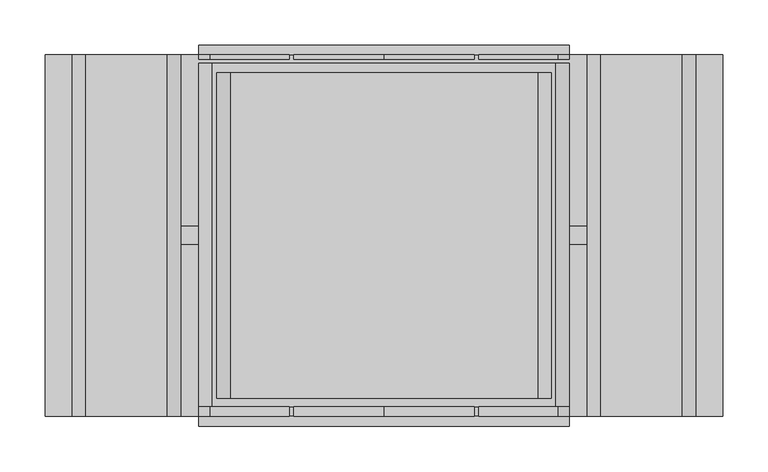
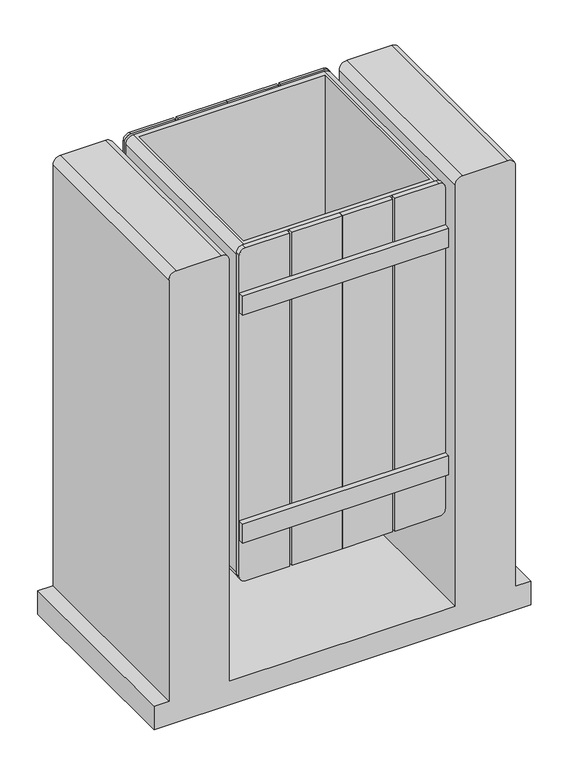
"""IFC4 building model written with IfcOpenShell, lengths in millimetres: furniture geometry, Tacho : Tacho."""

from ifc_helpers import new_model, si_unit, point, frame, frame_2d, origin, place, context, project, spatial, polyline, circle_curve, trimmed, segment, composite_curve, outline, extrude, source, transform, mapped, element, save
from ifc_brep_helpers import plane_surface, cylinder_surface, revolved_surface, advanced_brep


def furniture_01fcf808(model_context):
    return source(origin(), model_context, "Body", "SolidModel", [
        extrude(outline(polyline([(205.0, 400.0), (-205.0, 400.0), (-205.0, 410.4650757), (205.0, 410.4650757), (205.0, 400.0)])), frame((0.0, 0.0, 340.0), z_axis=(0.0, 0.0, 1.0), x_axis=(1.0, 0.0, 0.0)), (0.0, 0.0, 1.0), 40.0),
        extrude(outline(polyline([(205.0, 400.0), (-205.0, 400.0), (-205.0, 410.4650757), (205.0, 410.4650757), (205.0, 400.0)])), frame((0.0, 0.0, 819.1421356), z_axis=(0.0, 0.0, 1.0), x_axis=(1.0, 0.0, 0.0)), (0.0, 0.0, 1.0), 40.0),
        extrude(outline(polyline([(205.0, -11.3262836), (-205.0, -11.3262836), (-205.0, 0.0), (205.0, 0.0), (205.0, -11.3262836)])), frame((0.0, 0.0, 340.0), z_axis=(0.0, 0.0, 1.0), x_axis=(1.0, 0.0, 0.0)), (0.0, 0.0, 1.0), 40.0),
        extrude(outline(polyline([(205.0, -11.3262836), (-205.0, -11.3262836), (-205.0, 0.0), (205.0, 0.0), (205.0, -11.3262836)])), frame((0.0, 0.0, 819.1421356), z_axis=(0.0, 0.0, 1.0), x_axis=(1.0, 0.0, 0.0)), (0.0, 0.0, 1.0), 40.0),
        extrude(outline(composite_curve([segment(polyline([(950.0, 105.0), (250.0, 105.0), (250.0, 192.5)]), True, "CONTINUOUS"), segment(trimmed(circle_curve(frame_2d((262.5, 192.5)), 12.5), [point((250.0, 192.5))], [point((262.5, 205.0))], False, "CARTESIAN"), True, "CONTINUOUS"), segment(polyline([(262.5, 205.0), (937.5, 205.0)]), True, "CONTINUOUS"), segment(trimmed(circle_curve(frame_2d((937.5, 192.5)), 12.5), [point((937.5, 205.0))], [point((950.0, 192.5))], False, "CARTESIAN"), True, "CONTINUOUS"), segment(polyline([(950.0, 192.5), (950.0, 105.0)]), True, "CONTINUOUS")], self_intersect=False)), frame((0.0, 395.0, 0.0), z_axis=(0.0, 1.0, 0.0), x_axis=(0.0, 0.0, 1.0)), (0.0, 0.0, 1.0), 5.0),
        extrude(outline(polyline([(100.0, 395.0), (0.0, 395.0), (0.0, 400.0), (100.0, 400.0), (100.0, 395.0)])), frame((0.0, 0.0, 250.0), z_axis=(0.0, 0.0, 1.0), x_axis=(1.0, 0.0, 0.0)), (0.0, 0.0, 1.0), 700.0),
        extrude(outline(polyline([(0.0, 395.0), (-100.0, 395.0), (-100.0, 400.0), (0.0, 400.0), (0.0, 395.0)])), frame((0.0, 0.0, 250.0), z_axis=(0.0, 0.0, 1.0), x_axis=(1.0, 0.0, 0.0)), (0.0, 0.0, 1.0), 700.0),
        extrude(outline(composite_curve([segment(polyline([(950.0, -105.0), (950.0, -192.5)]), True, "CONTINUOUS"), segment(trimmed(circle_curve(frame_2d((937.5, -192.5)), 12.5), [point((950.0, -192.5))], [point((937.5, -205.0))], False, "CARTESIAN"), True, "CONTINUOUS"), segment(polyline([(937.5, -205.0), (262.5, -205.0)]), True, "CONTINUOUS"), segment(trimmed(circle_curve(frame_2d((262.5, -192.5)), 12.5), [point((262.5, -205.0))], [point((250.0, -192.5))], False, "CARTESIAN"), True, "CONTINUOUS"), segment(polyline([(250.0, -192.5), (250.0, -105.0), (950.0, -105.0)]), True, "CONTINUOUS")], self_intersect=False)), frame((0.0, 395.0, 0.0), z_axis=(0.0, 1.0, 0.0), x_axis=(0.0, 0.0, 1.0)), (0.0, 0.0, 1.0), 5.0),
        extrude(outline(polyline([(100.0, 0.0), (0.0, 0.0), (0.0, 10.1959569), (100.0, 10.1959569), (100.0, 0.0)])), frame((0.0, 0.0, 250.0), z_axis=(0.0, 0.0, 1.0), x_axis=(1.0, 0.0, 0.0)), (0.0, 0.0, 1.0), 700.0),
        extrude(outline(polyline([(0.0, 0.0), (-100.0, 0.0), (-100.0, 10.1959569), (0.0, 10.1959569), (0.0, 0.0)])), frame((0.0, 0.0, 250.0), z_axis=(0.0, 0.0, 1.0), x_axis=(1.0, 0.0, 0.0)), (0.0, 0.0, 1.0), 700.0),
        extrude(outline(composite_curve([segment(polyline([(950.0, 105.0), (250.0, 105.0), (250.0, 192.5)]), True, "CONTINUOUS"), segment(trimmed(circle_curve(frame_2d((262.5, 192.5)), 12.5), [point((250.0, 192.5))], [point((262.5, 205.0))], False, "CARTESIAN"), True, "CONTINUOUS"), segment(polyline([(262.5, 205.0), (937.5, 205.0)]), True, "CONTINUOUS"), segment(trimmed(circle_curve(frame_2d((937.5, 192.5)), 12.5), [point((937.5, 205.0))], [point((950.0, 192.5))], False, "CARTESIAN"), True, "CONTINUOUS"), segment(polyline([(950.0, 192.5), (950.0, 105.0)]), True, "CONTINUOUS")], self_intersect=False)), frame((0.0, 0.0, 0.0), z_axis=(0.0, 1.0, 0.0), x_axis=(0.0, 0.0, 1.0)), (0.0, 0.0, 1.0), 10.1959569),
        extrude(outline(composite_curve([segment(polyline([(950.0, -105.0), (950.0, -192.5)]), True, "CONTINUOUS"), segment(trimmed(circle_curve(frame_2d((937.5, -192.5)), 12.5), [point((950.0, -192.5))], [point((937.5, -205.0))], False, "CARTESIAN"), True, "CONTINUOUS"), segment(polyline([(937.5, -205.0), (262.5, -205.0)]), True, "CONTINUOUS"), segment(trimmed(circle_curve(frame_2d((262.5, -192.5)), 12.5), [point((262.5, -205.0))], [point((250.0, -192.5))], False, "CARTESIAN"), True, "CONTINUOUS"), segment(polyline([(250.0, -192.5), (250.0, -105.0), (950.0, -105.0)]), True, "CONTINUOUS")], self_intersect=False)), frame((0.0, 0.0, 0.0), z_axis=(0.0, 1.0, 0.0), x_axis=(0.0, 0.0, 1.0)), (0.0, 0.0, 1.0), 10.1959569),
        extrude(outline(polyline([(225.0, 210.0), (225.0, 190.0), (205.0, 190.0), (205.0, 210.0), (225.0, 210.0)])), frame((0.0, 0.0, 838.6562284), z_axis=(0.0, 0.0, 1.0), x_axis=(1.0, 0.0, 0.0)), (0.0, 0.0, 1.0), 20.4859072),
        extrude(outline(polyline([(-205.0, 210.0), (-205.0, 190.0), (-225.0, 190.0), (-225.0, 210.0), (-205.0, 210.0)])), frame((0.0, 0.0, 838.6562284), z_axis=(0.0, 0.0, 1.0), x_axis=(1.0, 0.0, 0.0)), (0.0, 0.0, 1.0), 20.4859072),
        advanced_brep(
        [(-205.0, 10.1959569, 265.0), (-190.0, 10.1959569, 250.0), (190.0, 10.1959569, 250.0), (205.0, 10.1959569, 265.0), (205.0, 10.1959569, 935.0), (190.0, 10.1959569, 950.0), (-190.0, 10.1959569, 950.0), (-205.0, 10.1959569, 935.0), (-205.0, 390.4650757, 265.0), (-205.0, 390.4650757, 935.0), (-190.0, 390.4650757, 950.0), (190.0, 390.4650757, 950.0), (205.0, 390.4650757, 935.0), (205.0, 390.4650757, 265.0), (190.0, 390.4650757, 250.0), (-190.0, 390.4650757, 250.0), (185.0, 19.8319905, 950.0), (-185.0, 19.8319905, 950.0), (-185.0, 380.0424252, 950.0), (185.0, 380.0424252, 950.0), (185.0, 19.8319905, 285.0), (170.0, 19.8319905, 270.0), (-170.0, 19.8319905, 270.0), (-185.0, 19.8319905, 285.0), (-185.0, 380.0424252, 285.0), (-170.0, 380.0424252, 270.0), (170.0, 380.0424252, 270.0), (185.0, 380.0424252, 285.0)],
        [
            (0, 1, circle_curve(frame((-190.0, 10.1959569, 265.0), z_axis=(0.0, -1.0, 0.0), x_axis=(1.0, 0.0, 0.0)), 15.0)),
            (1, 2),
            (2, 3, circle_curve(frame((190.0, 10.1959569, 265.0), z_axis=(0.0, -1.0, 0.0), x_axis=(1.0, 0.0, 0.0)), 15.0)),
            (3, 4),
            (4, 5, circle_curve(frame((190.0, 10.1959569, 935.0), z_axis=(0.0, -1.0, 0.0), x_axis=(1.0, 0.0, 0.0)), 15.0)),
            (5, 6),
            (6, 7, circle_curve(frame((-190.0, 10.1959569, 935.0), z_axis=(0.0, -1.0, 0.0), x_axis=(1.0, 0.0, 0.0)), 15.0)),
            (7, 0),
            (8, 9),
            (9, 10, circle_curve(frame((-190.0, 390.4650757, 935.0), z_axis=(0.0, 1.0, 0.0), x_axis=(1.0, 0.0, 0.0)), 15.0)),
            (10, 11),
            (11, 12, circle_curve(frame((190.0, 390.4650757, 935.0), z_axis=(0.0, 1.0, 0.0), x_axis=(1.0, 0.0, 0.0)), 15.0)),
            (12, 13),
            (13, 14, circle_curve(frame((190.0, 390.4650757, 265.0), z_axis=(0.0, 1.0, 0.0), x_axis=(1.0, 0.0, 0.0)), 15.0)),
            (14, 15),
            (15, 8, circle_curve(frame((-190.0, 390.4650757, 265.0), z_axis=(0.0, 1.0, 0.0), x_axis=(1.0, 0.0, 0.0)), 15.0)),
            (0, 8),
            (15, 1),
            (14, 2),
            (13, 3),
            (12, 4),
            (11, 5),
            (10, 6),
            (16, 17),
            (17, 18),
            (18, 19),
            (19, 16),
            (9, 7),
            (20, 21, circle_curve(frame((170.0, 19.8319905, 285.0), z_axis=(0.0, 1.0, 0.0), x_axis=(1.0, 0.0, 0.0)), 15.0)),
            (21, 22),
            (22, 23, circle_curve(frame((-170.0, 19.8319905, 285.0), z_axis=(0.0, 1.0, 0.0), x_axis=(1.0, 0.0, 0.0)), 15.0)),
            (23, 17),
            (16, 20),
            (24, 25, circle_curve(frame((-170.0, 380.0424252, 285.0), z_axis=(0.0, -1.0, 0.0), x_axis=(1.0, 0.0, 0.0)), 15.0)),
            (25, 26),
            (26, 27, circle_curve(frame((170.0, 380.0424252, 285.0), z_axis=(0.0, -1.0, 0.0), x_axis=(1.0, 0.0, 0.0)), 15.0)),
            (27, 19),
            (18, 24),
            (22, 25),
            (24, 23),
            (21, 26),
            (20, 27),
        ],
        [
            plane_surface(frame((-175.0, 10.1959569, 265.0), z_axis=(0.0, -1.0, 0.0), x_axis=(0.0, 0.0, 1.0))),
            plane_surface(frame((-175.0, 390.4650757, 265.0), z_axis=(0.0, 1.0, 0.0), x_axis=(0.0, 0.0, -1.0))),
            cylinder_surface(frame((-190.0, 390.4650757, 265.0), z_axis=(0.0, -1.0, 0.0), x_axis=(1.0, 0.0, 0.0)), 15.0),
            plane_surface(frame((-190.0, 10.1959569, 250.0), z_axis=(0.0, 0.0, -1.0), x_axis=(0.0, 1.0, 0.0))),
            cylinder_surface(frame((190.0, 390.4650757, 265.0), z_axis=(0.0, -1.0, 0.0), x_axis=(1.0, 0.0, 0.0)), 15.0),
            plane_surface(frame((205.0, 10.1959569, 265.0), z_axis=(1.0, 0.0, 0.0), x_axis=(0.0, 1.0, 0.0))),
            cylinder_surface(frame((190.0, 390.4650757, 935.0), z_axis=(0.0, -1.0, 0.0), x_axis=(1.0, 0.0, 0.0)), 15.0),
            plane_surface(frame((190.0, 10.1959569, 950.0), z_axis=(0.0, 0.0, 1.0), x_axis=(0.0, 1.0, 0.0))),
            cylinder_surface(frame((-190.0, 390.4650757, 935.0), z_axis=(0.0, -1.0, 0.0), x_axis=(1.0, 0.0, 0.0)), 15.0),
            plane_surface(frame((-205.0, 10.1959569, 935.0), z_axis=(-1.0, 0.0, 0.0), x_axis=(0.0, 1.0, 0.0))),
            plane_surface(frame((-155.0, 19.8319905, 285.0), z_axis=(0.0, 1.0, 0.0), x_axis=(0.0, 0.0, 1.0))),
            plane_surface(frame((-155.0, 380.0424252, 285.0), z_axis=(0.0, -1.0, 0.0), x_axis=(0.0, 0.0, -1.0))),
            revolved_surface(polyline([(-155.0, 19.831990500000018, 285.0), (-155.0, 380.0424252, 285.0)]), (-170.0, 380.0424252, 285.0), (0.0, -1.0, 0.0)),
            plane_surface(frame((-170.0, 19.8319905, 270.0), z_axis=(0.0, 0.0, 1.0), x_axis=(0.0, 1.0, 0.0))),
            revolved_surface(polyline([(185.0, 19.831990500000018, 285.0), (185.0, 380.0424252, 285.0)]), (170.0, 380.0424252, 285.0), (0.0, -1.0, 0.0)),
            plane_surface(frame((185.0, 19.8319905, 285.0), z_axis=(-1.0, 0.0, 0.0), x_axis=(0.0, 1.0, 0.0))),
            plane_surface(frame((-185.0, 19.8319905, 1016.0452855), z_axis=(1.0, 0.0, 0.0), x_axis=(0.0, 1.0, 0.0))),
        ],
        [
            (0, [[1, 2, 3, 4, 5, 6, 7, 8]]),
            (1, [[9, 10, 11, 12, 13, 14, 15, 16]]),
            (2, [[-1, 17, -16, 18]]),
            (3, [[-2, -18, -15, 19]]),
            (4, [[-3, -19, -14, 20]]),
            (5, [[-4, -20, -13, 21]]),
            (6, [[-5, -21, -12, 22]]),
            (7, [[-6, -22, -11, 23], [24, 25, 26, 27]]),
            (8, [[-7, -23, -10, 28]]),
            (9, [[-8, -28, -9, -17]]),
            (10, [[29, 30, 31, 32, -24, 33]]),
            (11, [[34, 35, 36, 37, -26, 38]]),
            (12, [[-31, 39, -34, 40]]),
            (13, [[-30, 41, -35, -39]]),
            (14, [[-29, 42, -36, -41]]),
            (15, [[-42, -33, -27, -37]]),
            (16, [[-40, -38, -25, -32]]),
        ],
    ),
        extrude(outline(composite_curve([segment(polyline([(0.0, 375.0), (50.0, 375.0), (50.0, 345.0), (935.0, 345.0)]), True, "CONTINUOUS"), segment(trimmed(circle_curve(frame_2d((935.0, 330.0)), 15.0), [point((935.0, 345.0))], [point((950.0, 330.0))], False, "CARTESIAN"), True, "CONTINUOUS"), segment(polyline([(950.0, 330.0), (950.0, 240.0)]), True, "CONTINUOUS"), segment(trimmed(circle_curve(frame_2d((935.0, 240.0)), 15.0), [point((950.0, 240.0))], [point((935.0, 225.0))], False, "CARTESIAN"), True, "CONTINUOUS"), segment(polyline([(935.0, 225.0), (50.0, 225.0), (50.0, -225.0), (935.0, -225.0)]), True, "CONTINUOUS"), segment(trimmed(circle_curve(frame_2d((935.0, -240.0)), 15.0), [point((935.0, -225.0))], [point((950.0, -240.0))], False, "CARTESIAN"), True, "CONTINUOUS"), segment(polyline([(950.0, -240.0), (950.0, -330.0)]), True, "CONTINUOUS"), segment(trimmed(circle_curve(frame_2d((935.0, -330.0)), 15.0), [point((950.0, -330.0))], [point((935.0, -345.0))], False, "CARTESIAN"), True, "CONTINUOUS"), segment(polyline([(935.0, -345.0), (50.0, -345.0), (50.0, -375.0), (0.0, -375.0), (0.0, 0.0), (0.0, 375.0)]), True, "CONTINUOUS")], self_intersect=False)), frame((0.0, 0.0, 0.0), z_axis=(0.0, 1.0, 0.0), x_axis=(0.0, 0.0, 1.0)), (0.0, 0.0, 1.0), 400.0),
    ])


if __name__ == "__main__":
    model = new_model("IFC4")
    model_context = context("Model", 3, world=origin())
    ifc_project = project(units=[si_unit("LENGTHUNIT", "METRE", prefix="MILLI")], contexts=[model_context])
    site = spatial("IfcSite", under=ifc_project)
    building = spatial("IfcBuilding", under=site)
    placement = place(None, origin())
    furniture_shape = furniture_01fcf808(model_context)
    element("IfcFurniture", 1, ObjectType="Tacho : Tacho", at=placement, inside=building, context=model_context, shape_type="MappedRepresentation", body=[
        mapped(furniture_shape, transform((0.0, 0.0, 0.0), x_axis=(1.0, 0.0, 0.0), y_axis=(0.0, 1.0, 0.0), z_axis=(0.0, 0.0, 1.0))),
    ])
    save(model, "model.ifc")
